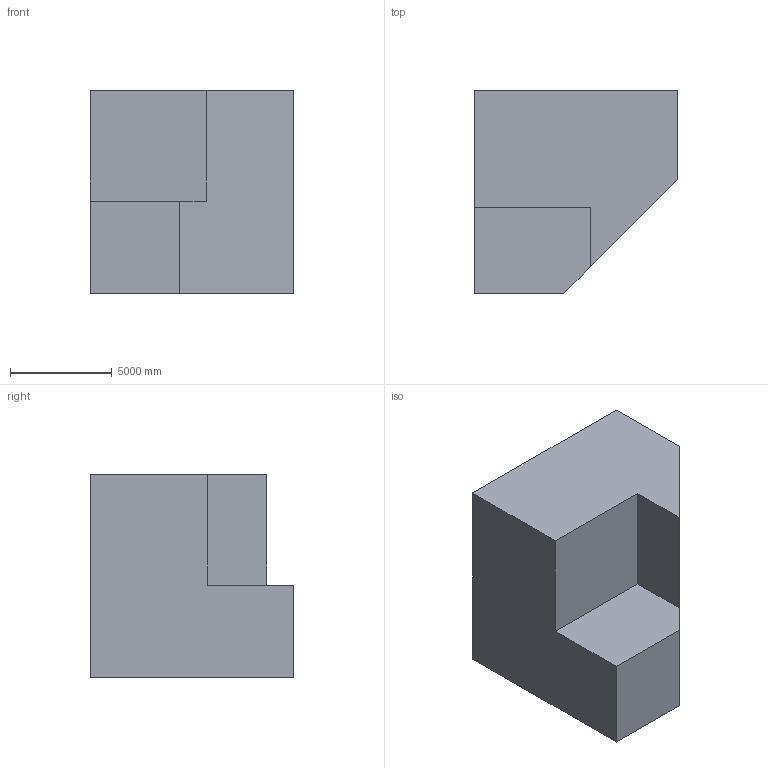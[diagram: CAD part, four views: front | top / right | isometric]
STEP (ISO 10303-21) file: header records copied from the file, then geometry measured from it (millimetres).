
FILE_DESCRIPTION (( 'STEP AP203' ), '1' );
FILE_NAME ('81.STEP', '2022-07-28T13:34:11', ( 'user' ), ( '' ), 'SwSTEP 2.0', 'SolidWorks 2021', '' );
FILE_SCHEMA (( 'CONFIG_CONTROL_DESIGN' ));
Length unit declared in the file: centimetre
Products named in the file (1): 81
Bounding box: 10000 x 10000 x 10000 mm (x, y, z)
Volume: 715467224434.2 mm3; surface area: 525422033.8 mm2
Topology: 1 solids, 1 shells, 10 faces, 24 edges, 16 vertices
Faces by surface type: plane 10
Entity records: 365 total; most frequent: CARTESIAN_POINT 51, ORIENTED_EDGE 48, DIRECTION 46, EDGE_CURVE 24, VECTOR 24, LINE 24, VERTEX_POINT 16, AXIS2_PLACEMENT_3D 11
